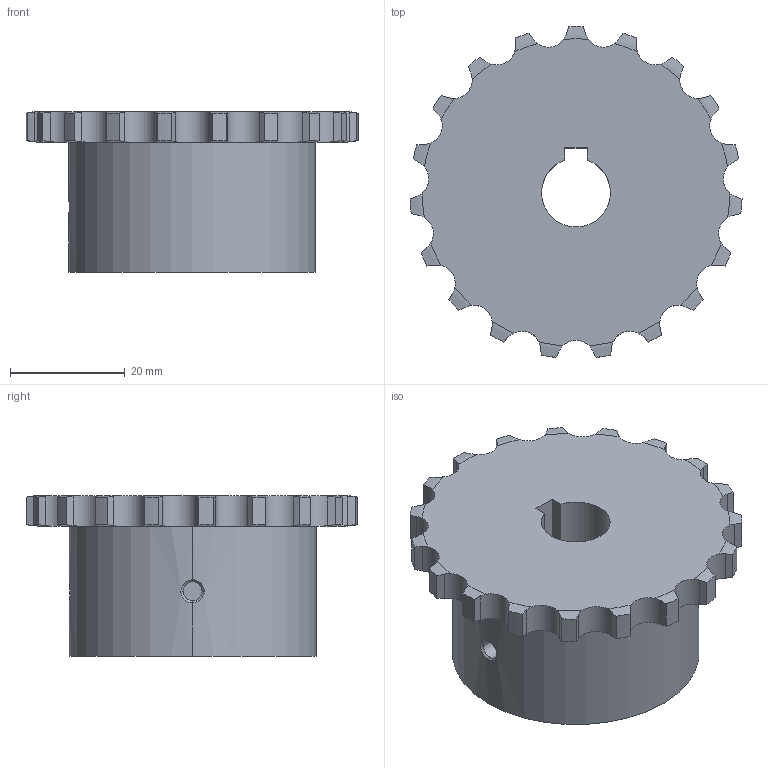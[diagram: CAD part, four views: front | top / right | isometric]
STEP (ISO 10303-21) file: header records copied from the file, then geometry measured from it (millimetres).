
FILE_DESCRIPTION((''),'2;1');
FILE_NAME('510-101-1219_PRT','2021-02-13T',('Brieden'),('Brieden'),'PRO/ENGINEER BY PARAMETRIC TECHNOLOGY CORPORATION, 2010160','PRO/ENGINEER BY PARAMETRIC TECHNOLOGY CORPORATION, 2010160','');
FILE_SCHEMA(('AUTOMOTIVE_DESIGN { 1 0 10303 214 1 1 1 1 }'));
Length unit declared in the file: millimetre
Products named in the file (1): 510-101-1219_PRT
Bounding box: 57.83 x 57.65 x 28 mm (x, y, z)
Volume: 41656.1 mm3; surface area: 10125.1 mm2
Topology: 1 solids, 1 shells, 134 faces, 387 edges, 256 vertices
Faces by surface type: cylinder 83, torus 38, plane 7, bspline 6
Entity records: 6490 total; most frequent: CARTESIAN_POINT 1950, ORIENTED_EDGE 774, DIRECTION 603, PRESENTATION_STYLE_ASSIGNMENT 388, STYLED_ITEM 388, CURVE_STYLE 387, EDGE_CURVE 387, VERTEX_POINT 256
